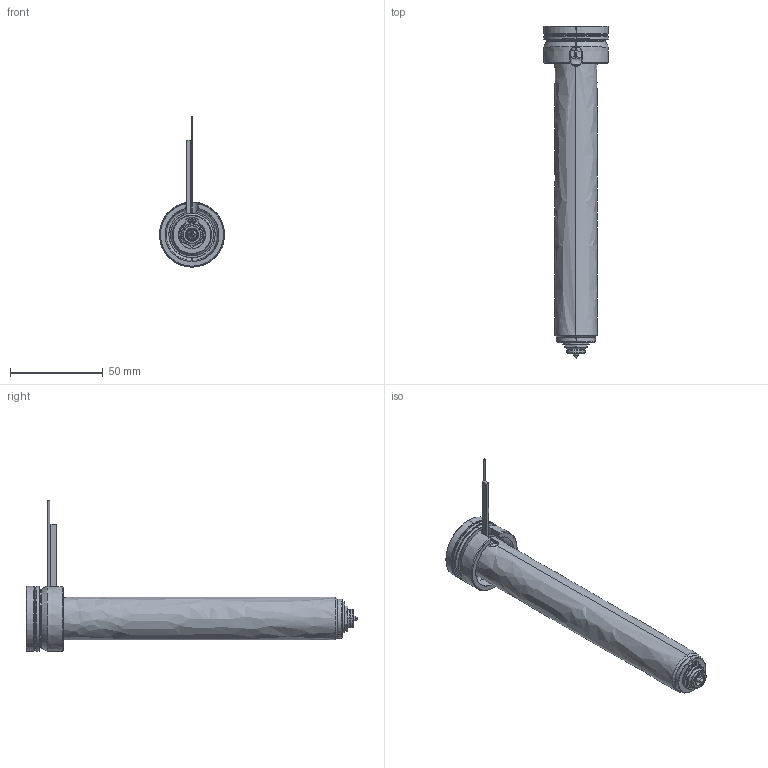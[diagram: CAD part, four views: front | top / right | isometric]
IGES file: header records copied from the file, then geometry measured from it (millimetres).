
Start section: SolidWorks IGES file using analytic representation for surfaces
Global section: file name: C:\Documents and Settings\ws-20\Desktop\TEM\UGEP3054-S-A-1 [Øf-0.90 ØC-6.0].IGS; native system: SolidWorks 2012; preprocessor: SolidWorks 2012; author: ws-20; date: 120402.112959; units: millimetre
Bounding box: 35 x 178.8 x 80.9 mm (x, y, z)
Surface area: 26139.6 mm2 (no closed solid volume)
Topology: 0 solids, 0 shells, 138 faces, 2128 edges, 2128 vertices
Faces by surface type: revolution 85, bspline 53
